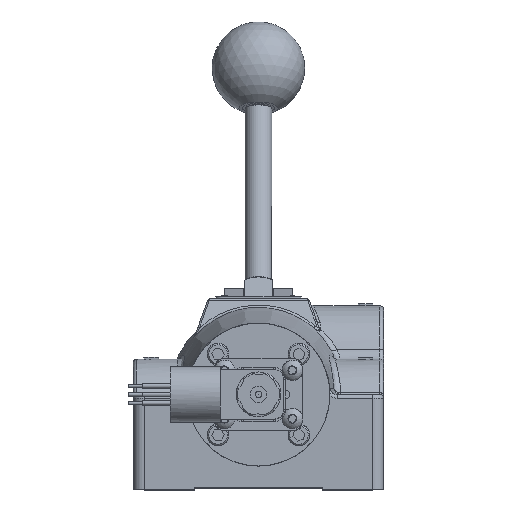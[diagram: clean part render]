
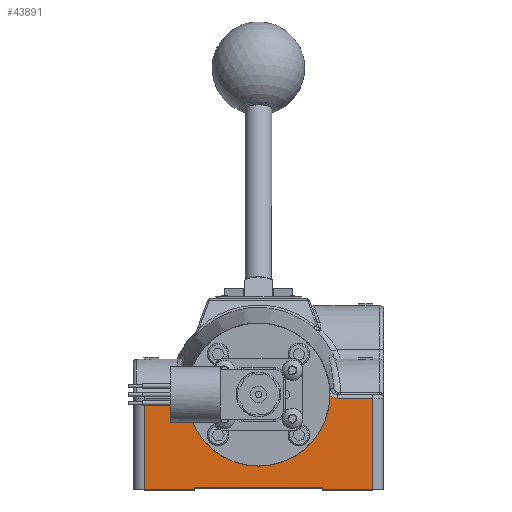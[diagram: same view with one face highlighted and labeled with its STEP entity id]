
A CAD part, top view. The second image highlights one B-rep face of the part: STEP entity #43891.
In plain terms, the highlighted planar face has unit normal (0, 0, 1).
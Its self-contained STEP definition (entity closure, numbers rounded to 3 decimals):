
#1342=B_SPLINE_CURVE_WITH_KNOTS('',3,(#75876,#75877,#75878,#75879,#75880),
 .UNSPECIFIED.,.F.,.F.,(4,1,4),(0.,0.291,0.347),
 .UNSPECIFIED.);
#1350=B_SPLINE_CURVE_WITH_KNOTS('',3,(#76063,#76064,#76065,#76066),
 .UNSPECIFIED.,.F.,.F.,(4,4),(0.356,0.703),
 .UNSPECIFIED.);
#2916=PLANE('',#47259);
#4679=FACE_OUTER_BOUND('',#7390,.T.);
#7390=EDGE_LOOP('',(#32235,#32236,#32237,#32238,#32239,#32240,#32241,#32242,
#32243,#32244,#32245,#32246));
#10038=CIRCLE('',#47130,3.178);
#12016=LINE('',#74499,#14648);
#12082=LINE('',#75642,#14714);
#12087=LINE('',#75655,#14719);
#12090=LINE('',#75659,#14722);
#12091=LINE('',#75661,#14723);
#12103=LINE('',#75713,#14735);
#12109=LINE('',#75770,#14741);
#12111=LINE('',#75944,#14743);
#12119=LINE('',#76190,#14751);
#14648=VECTOR('',#53567,1.);
#14714=VECTOR('',#53819,1.);
#14719=VECTOR('',#53832,1.);
#14722=VECTOR('',#53837,1.);
#14723=VECTOR('',#53840,1.);
#14735=VECTOR('',#53880,1.);
#14741=VECTOR('',#53958,1.);
#14743=VECTOR('',#53966,1.);
#14751=VECTOR('',#54062,1.);
#17923=VERTEX_POINT('',#74483);
#17929=VERTEX_POINT('',#74497);
#17986=VERTEX_POINT('',#75639);
#17987=VERTEX_POINT('',#75641);
#17989=VERTEX_POINT('',#75651);
#17991=VERTEX_POINT('',#75654);
#18008=VERTEX_POINT('',#75712);
#18022=VERTEX_POINT('',#75766);
#18026=VERTEX_POINT('',#75848);
#18031=VERTEX_POINT('',#75937);
#18034=VERTEX_POINT('',#75942);
#18057=VERTEX_POINT('',#76058);
#22629=EDGE_CURVE('',#17923,#17929,#12016,.T.);
#22754=EDGE_CURVE('',#17987,#17986,#12082,.T.);
#22760=EDGE_CURVE('',#17991,#17989,#12087,.T.);
#22763=EDGE_CURVE('',#17929,#17987,#12090,.T.);
#22764=EDGE_CURVE('',#17986,#17991,#12091,.T.);
#22786=EDGE_CURVE('',#17923,#18008,#12103,.T.);
#22815=EDGE_CURVE('',#18008,#18022,#12109,.T.);
#22820=EDGE_CURVE('',#18022,#18026,#1342,.T.);
#22829=EDGE_CURVE('',#18034,#18031,#12111,.T.);
#22866=EDGE_CURVE('',#18057,#18034,#1350,.T.);
#22878=EDGE_CURVE('',#18031,#17989,#12119,.T.);
#22939=EDGE_CURVE('',#18026,#18057,#10038,.T.);
#32235=ORIENTED_EDGE('',*,*,#22760,.T.);
#32236=ORIENTED_EDGE('',*,*,#22878,.F.);
#32237=ORIENTED_EDGE('',*,*,#22829,.F.);
#32238=ORIENTED_EDGE('',*,*,#22866,.F.);
#32239=ORIENTED_EDGE('',*,*,#22939,.F.);
#32240=ORIENTED_EDGE('',*,*,#22820,.F.);
#32241=ORIENTED_EDGE('',*,*,#22815,.F.);
#32242=ORIENTED_EDGE('',*,*,#22786,.F.);
#32243=ORIENTED_EDGE('',*,*,#22629,.T.);
#32244=ORIENTED_EDGE('',*,*,#22763,.T.);
#32245=ORIENTED_EDGE('',*,*,#22754,.T.);
#32246=ORIENTED_EDGE('',*,*,#22764,.T.);
#43891=ADVANCED_FACE('',(#4679),#2916,.T.);
#47130=AXIS2_PLACEMENT_3D('',#76826,#54136,#54137);
#47259=AXIS2_PLACEMENT_3D('',#91581,#54606,#54607);
#53567=DIRECTION('',(1.,0.,0.));
#53819=DIRECTION('',(1.,0.,0.));
#53832=DIRECTION('',(1.,0.,0.));
#53837=DIRECTION('',(0.,1.,0.));
#53840=DIRECTION('',(0.,-1.,0.));
#53880=DIRECTION('',(0.,1.,0.));
#53958=DIRECTION('',(1.,0.,0.));
#53966=DIRECTION('',(1.,0.,0.));
#54062=DIRECTION('',(0.,-1.,0.));
#54136=DIRECTION('center_axis',(0.,0.,1.));
#54137=DIRECTION('ref_axis',(-1.,0.,0.));
#54606=DIRECTION('center_axis',(0.,0.,1.));
#54607=DIRECTION('ref_axis',(1.,0.,0.));
#74483=CARTESIAN_POINT('',(-5.08,-4.207,8.652));
#74497=CARTESIAN_POINT('',(-2.858,-4.207,8.652));
#74499=CARTESIAN_POINT('',(0.,-4.207,8.652));
#75639=CARTESIAN_POINT('',(2.858,-4.128,8.652));
#75641=CARTESIAN_POINT('',(-2.858,-4.128,8.652));
#75642=CARTESIAN_POINT('',(0.,-4.128,8.652));
#75651=CARTESIAN_POINT('',(5.08,-4.207,8.652));
#75654=CARTESIAN_POINT('',(2.858,-4.207,8.652));
#75655=CARTESIAN_POINT('',(0.,-4.207,8.652));
#75659=CARTESIAN_POINT('',(-2.858,-4.247,8.652));
#75661=CARTESIAN_POINT('',(2.858,-4.247,8.652));
#75712=CARTESIAN_POINT('',(-5.08,-0.159,8.652));
#75713=CARTESIAN_POINT('',(-5.08,-3.215,8.652));
#75766=CARTESIAN_POINT('',(-3.497,-0.159,8.652));
#75770=CARTESIAN_POINT('',(0.,-0.159,8.652));
#75848=CARTESIAN_POINT('',(-3.177,-0.037,8.652));
#75876=CARTESIAN_POINT('Ctrl Pts',(-3.497,-0.159,
8.652));
#75877=CARTESIAN_POINT('Ctrl Pts',(-3.4,-0.159,
8.652));
#75878=CARTESIAN_POINT('Ctrl Pts',(-3.283,-0.122,
8.652));
#75879=CARTESIAN_POINT('Ctrl Pts',(-3.192,-0.05,
8.652));
#75880=CARTESIAN_POINT('Ctrl Pts',(-3.178,-0.037,
8.652));
#75937=CARTESIAN_POINT('',(5.08,-0.159,8.652));
#75942=CARTESIAN_POINT('',(3.497,-0.159,8.652));
#75944=CARTESIAN_POINT('',(0.,-0.159,8.652));
#76058=CARTESIAN_POINT('',(3.177,-0.037,8.652));
#76063=CARTESIAN_POINT('Ctrl Pts',(3.178,-0.037,
8.652));
#76064=CARTESIAN_POINT('Ctrl Pts',(3.265,-0.114,
8.652));
#76065=CARTESIAN_POINT('Ctrl Pts',(3.381,-0.159,
8.652));
#76066=CARTESIAN_POINT('Ctrl Pts',(3.497,-0.159,
8.652));
#76190=CARTESIAN_POINT('',(5.08,-3.215,8.652));
#76826=CARTESIAN_POINT('Origin',(0.,0.,8.652));
#91581=CARTESIAN_POINT('Origin',(0.,-4.286,8.652));
